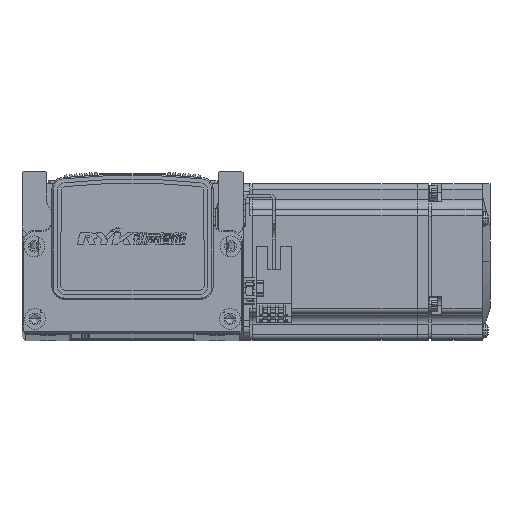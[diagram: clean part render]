
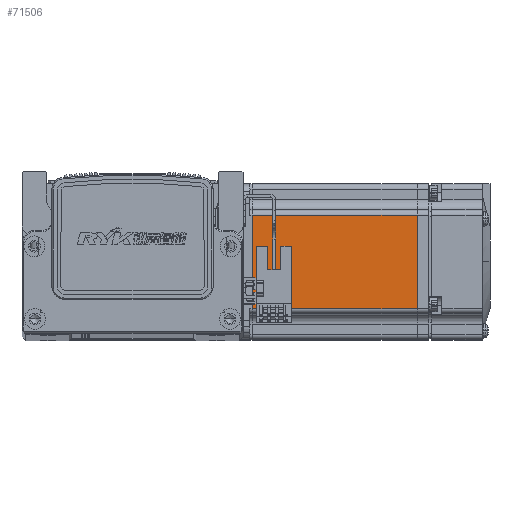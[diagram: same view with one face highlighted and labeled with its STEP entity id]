
A CAD part, top view. The second image highlights one B-rep face of the part: STEP entity #71506.
In plain terms, the highlighted planar face has unit normal (0, 0, 1) as drawn and (0, 0, -1) by its records, which use the part's own axes.
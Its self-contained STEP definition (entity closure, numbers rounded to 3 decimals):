
#1915 = DIRECTION ( 'NONE',  ( -1., 0., 0. ) ) ;
#1934 = PLANE ( 'NONE',  #19152 ) ;
#1935 = CARTESIAN_POINT ( 'NONE',  ( -6.5, 25., -30. ) ) ;
#1944 = DIRECTION ( 'NONE',  ( 0., 0., -1. ) ) ;
#9616 = CARTESIAN_POINT ( 'NONE',  ( -7.75, 18., -30. ) ) ;
#9690 = CARTESIAN_POINT ( 'NONE',  ( -70.95, -18., -30. ) ) ;
#11204 = CARTESIAN_POINT ( 'NONE',  ( -70.95, 18., -30. ) ) ;
#11845 = CARTESIAN_POINT ( 'NONE',  ( -7.75, -18., -30. ) ) ;
#12132 = EDGE_CURVE ( 'NONE', #58026, #60528, #54750, .T. ) ;
#12138 = EDGE_CURVE ( 'NONE', #52821, #58956, #54695, .T. ) ;
#12153 = EDGE_CURVE ( 'NONE', #60528, #52821, #54691, .T. ) ;
#12178 = EDGE_CURVE ( 'NONE', #58956, #58026, #54774, .T. ) ;
#15042 = FACE_OUTER_BOUND ( 'NONE', #68886, .T. ) ;
#19152 = AXIS2_PLACEMENT_3D ( 'NONE', #1935, #1944, #1915 ) ;
#52821 = VERTEX_POINT ( 'NONE', #11204 ) ;
#54659 = VECTOR ( 'NONE', #77806, 1000. ) ;
#54691 = LINE ( 'NONE', #77913, #54724 ) ;
#54695 = LINE ( 'NONE', #77759, #54719 ) ;
#54719 = VECTOR ( 'NONE', #77735, 1000. ) ;
#54724 = VECTOR ( 'NONE', #77925, 1000. ) ;
#54750 = LINE ( 'NONE', #77763, #54659 ) ;
#54774 = LINE ( 'NONE', #78032, #54803 ) ;
#54803 = VECTOR ( 'NONE', #78110, 1000. ) ;
#58026 = VERTEX_POINT ( 'NONE', #11845 ) ;
#58956 = VERTEX_POINT ( 'NONE', #9616 ) ;
#60528 = VERTEX_POINT ( 'NONE', #9690 ) ;
#68886 = EDGE_LOOP ( 'NONE', ( #76606, #76635, #76605, #76634 ) ) ;
#71506 = ADVANCED_FACE ( 'NONE', ( #15042 ), #1934, .T. ) ;
#76605 = ORIENTED_EDGE ( 'NONE', *, *, #12153, .T. ) ;
#76606 = ORIENTED_EDGE ( 'NONE', *, *, #12178, .T. ) ;
#76634 = ORIENTED_EDGE ( 'NONE', *, *, #12138, .T. ) ;
#76635 = ORIENTED_EDGE ( 'NONE', *, *, #12132, .T. ) ;
#77735 = DIRECTION ( 'NONE',  ( 1., 0., 0. ) ) ;
#77759 = CARTESIAN_POINT ( 'NONE',  ( -6.5, 18., -30. ) ) ;
#77763 = CARTESIAN_POINT ( 'NONE',  ( -6.5, -18., -30. ) ) ;
#77806 = DIRECTION ( 'NONE',  ( -1., 0., 0. ) ) ;
#77913 = CARTESIAN_POINT ( 'NONE',  ( -70.95, 25., -30. ) ) ;
#77925 = DIRECTION ( 'NONE',  ( 0., 1., 0. ) ) ;
#78032 = CARTESIAN_POINT ( 'NONE',  ( -7.75, 25., -30. ) ) ;
#78110 = DIRECTION ( 'NONE',  ( 0., -1., 0. ) ) ;
